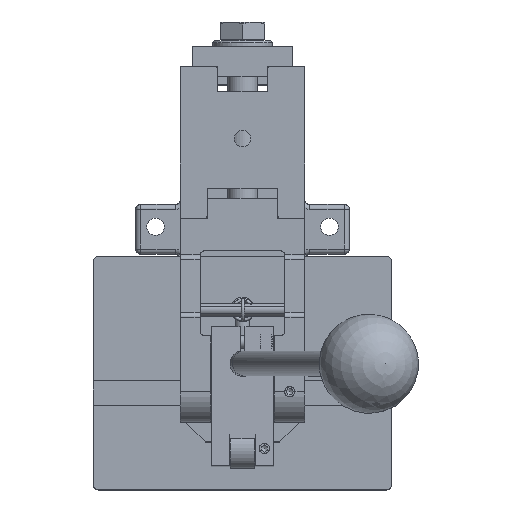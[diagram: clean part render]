
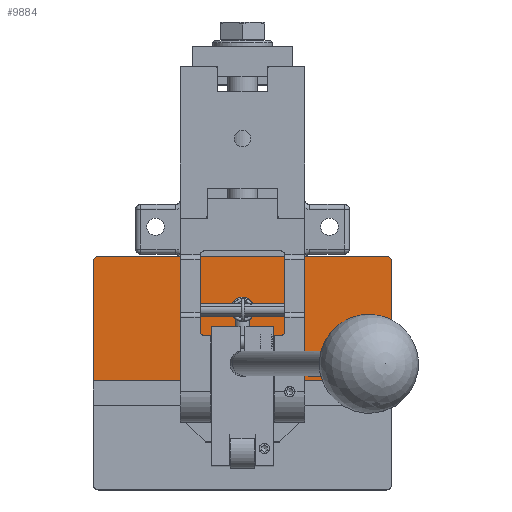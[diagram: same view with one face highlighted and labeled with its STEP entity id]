
A CAD part, top view. The second image highlights one B-rep face of the part: STEP entity #9884.
In plain terms, the highlighted planar face has unit normal (0, 0, 1) as drawn and (0, 1, 0) by its records, which use the part's own axes.
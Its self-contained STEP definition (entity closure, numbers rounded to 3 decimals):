
#684=PLANE('',#10816);
#1127=FACE_OUTER_BOUND('',#1680,.T.);
#1680=EDGE_LOOP('',(#7243,#7244,#7245,#7246,#7247,#7248,#7249,#7250,#7251,
#7252,#7253,#7254));
#2231=LINE('',#14845,#3047);
#2291=LINE('',#15071,#3107);
#2377=LINE('',#15410,#3193);
#2378=LINE('',#15412,#3194);
#2379=LINE('',#15414,#3195);
#2380=LINE('',#15418,#3196);
#2381=LINE('',#15422,#3197);
#2382=LINE('',#15423,#3198);
#3047=VECTOR('',#11852,10.);
#3107=VECTOR('',#12054,10.);
#3193=VECTOR('',#12328,10.);
#3194=VECTOR('',#12329,10.);
#3195=VECTOR('',#12330,10.);
#3196=VECTOR('',#12333,10.);
#3197=VECTOR('',#12336,10.);
#3198=VECTOR('',#12337,10.);
#3871=CIRCLE('',#10653,2.);
#3937=CIRCLE('',#10814,2.);
#3938=CIRCLE('',#10817,2.);
#3939=CIRCLE('',#10818,2.);
#4385=VERTEX_POINT('',#14842);
#4386=VERTEX_POINT('',#14844);
#4399=VERTEX_POINT('',#14872);
#4441=VERTEX_POINT('',#15069);
#4519=VERTEX_POINT('',#15403);
#4520=VERTEX_POINT('',#15409);
#4521=VERTEX_POINT('',#15411);
#4522=VERTEX_POINT('',#15413);
#4523=VERTEX_POINT('',#15415);
#4524=VERTEX_POINT('',#15417);
#4525=VERTEX_POINT('',#15419);
#4526=VERTEX_POINT('',#15421);
#5356=EDGE_CURVE('',#4386,#4385,#2231,.T.);
#5371=EDGE_CURVE('',#4385,#4399,#3871,.T.);
#5452=EDGE_CURVE('',#4399,#4441,#2291,.T.);
#5580=EDGE_CURVE('',#4441,#4519,#3937,.T.);
#5582=EDGE_CURVE('',#4519,#4520,#2377,.T.);
#5583=EDGE_CURVE('',#4520,#4521,#2378,.T.);
#5584=EDGE_CURVE('',#4521,#4522,#2379,.T.);
#5585=EDGE_CURVE('',#4522,#4523,#3938,.T.);
#5586=EDGE_CURVE('',#4523,#4524,#2380,.T.);
#5587=EDGE_CURVE('',#4524,#4525,#3939,.T.);
#5588=EDGE_CURVE('',#4525,#4526,#2381,.T.);
#5589=EDGE_CURVE('',#4526,#4386,#2382,.T.);
#7243=ORIENTED_EDGE('',*,*,#5371,.T.);
#7244=ORIENTED_EDGE('',*,*,#5452,.T.);
#7245=ORIENTED_EDGE('',*,*,#5580,.T.);
#7246=ORIENTED_EDGE('',*,*,#5582,.T.);
#7247=ORIENTED_EDGE('',*,*,#5583,.T.);
#7248=ORIENTED_EDGE('',*,*,#5584,.T.);
#7249=ORIENTED_EDGE('',*,*,#5585,.T.);
#7250=ORIENTED_EDGE('',*,*,#5586,.T.);
#7251=ORIENTED_EDGE('',*,*,#5587,.T.);
#7252=ORIENTED_EDGE('',*,*,#5588,.T.);
#7253=ORIENTED_EDGE('',*,*,#5589,.T.);
#7254=ORIENTED_EDGE('',*,*,#5356,.T.);
#9884=ADVANCED_FACE('',(#1127),#684,.T.);
#10653=AXIS2_PLACEMENT_3D('',#14874,#11869,#11870);
#10814=AXIS2_PLACEMENT_3D('',#15405,#12321,#12322);
#10816=AXIS2_PLACEMENT_3D('',#15408,#12326,#12327);
#10817=AXIS2_PLACEMENT_3D('',#15416,#12331,#12332);
#10818=AXIS2_PLACEMENT_3D('',#15420,#12334,#12335);
#11852=DIRECTION('',(-1.,0.,0.));
#11869=DIRECTION('center_axis',(0.,1.,0.));
#11870=DIRECTION('ref_axis',(0.,0.,1.));
#12054=DIRECTION('',(0.,0.,1.));
#12321=DIRECTION('center_axis',(0.,1.,0.));
#12322=DIRECTION('ref_axis',(1.,0.,0.));
#12326=DIRECTION('center_axis',(0.,1.,0.));
#12327=DIRECTION('ref_axis',(0.,0.,1.));
#12328=DIRECTION('',(1.,0.,0.));
#12329=DIRECTION('',(0.,0.,-1.));
#12330=DIRECTION('',(-1.,0.,0.));
#12331=DIRECTION('center_axis',(0.,-1.,0.));
#12332=DIRECTION('ref_axis',(1.,0.,0.));
#12333=DIRECTION('',(0.,0.,-1.));
#12334=DIRECTION('center_axis',(0.,-1.,0.));
#12335=DIRECTION('ref_axis',(0.,0.,
1.));
#12336=DIRECTION('',(1.,0.,0.));
#12337=DIRECTION('',(0.,0.,-1.));
#14842=CARTESIAN_POINT('',(78.,45.,-60.));
#14844=CARTESIAN_POINT('',(126.,45.,-60.));
#14845=CARTESIAN_POINT('',(170.,45.,-60.));
#14872=CARTESIAN_POINT('',(76.,45.,-58.));
#14874=CARTESIAN_POINT('Origin',(78.,45.,-58.));
#15069=CARTESIAN_POINT('',(76.,45.,58.));
#15071=CARTESIAN_POINT('',(76.,45.,0.));
#15403=CARTESIAN_POINT('',(78.,45.,60.));
#15405=CARTESIAN_POINT('Origin',(78.,45.,58.));
#15408=CARTESIAN_POINT('Origin',(76.,45.,0.));
#15409=CARTESIAN_POINT('',(126.,45.,60.));
#15410=CARTESIAN_POINT('',(170.,45.,60.));
#15411=CARTESIAN_POINT('',(126.,45.,12.5));
#15412=CARTESIAN_POINT('',(126.,45.,30.));
#15413=CARTESIAN_POINT('',(120.5,45.,12.5));
#15414=CARTESIAN_POINT('',(98.25,45.,12.5));
#15415=CARTESIAN_POINT('',(118.5,45.,10.5));
#15416=CARTESIAN_POINT('Origin',(120.5,45.,10.5));
#15417=CARTESIAN_POINT('',(118.5,45.,-10.5));
#15418=CARTESIAN_POINT('',(118.5,45.,-5.25));
#15419=CARTESIAN_POINT('',(120.5,45.,-12.5));
#15420=CARTESIAN_POINT('Origin',(120.5,45.,-10.5));
#15421=CARTESIAN_POINT('',(126.,45.,-12.5));
#15422=CARTESIAN_POINT('',(108.75,45.,-12.5));
#15423=CARTESIAN_POINT('',(126.,45.,30.));
